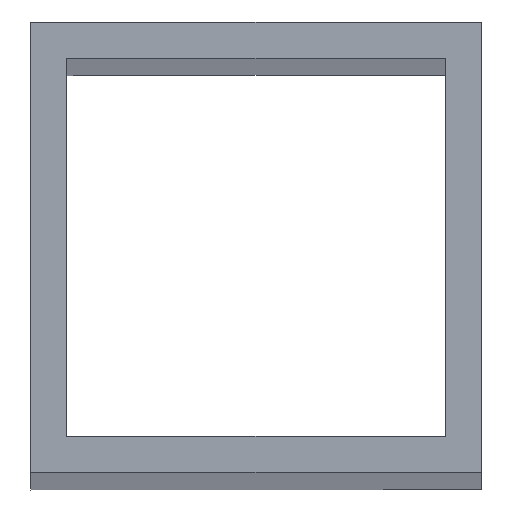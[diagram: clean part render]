
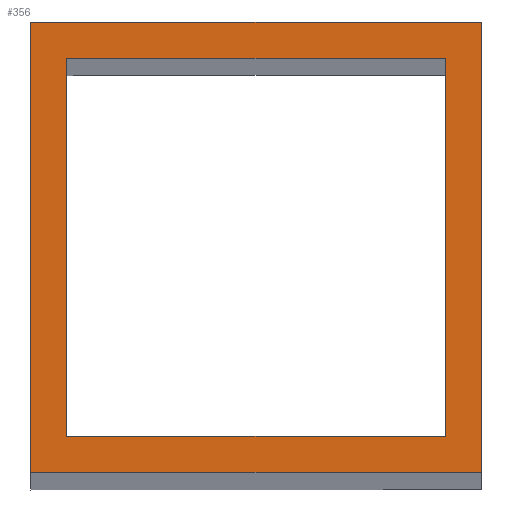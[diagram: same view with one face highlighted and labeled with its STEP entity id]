
A CAD part, top view. The second image highlights one B-rep face of the part: STEP entity #356.
In plain terms, the highlighted planar face has unit normal (0, 0, 1).
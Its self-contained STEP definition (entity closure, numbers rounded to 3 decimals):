
#32 = PLANE('',#33);
#33 = AXIS2_PLACEMENT_3D('',#34,#35,#36);
#34 = CARTESIAN_POINT('',(-25.,-25.,-25.));
#35 = DIRECTION('',(0.,1.,0.));
#36 = DIRECTION('',(1.,0.,0.));
#55 = VERTEX_POINT('',#56);
#56 = CARTESIAN_POINT('',(-25.,-25.,1101.268));
#70 = PLANE('',#71);
#71 = AXIS2_PLACEMENT_3D('',#72,#73,#74);
#72 = CARTESIAN_POINT('',(-25.,25.,-25.));
#73 = DIRECTION('',(1.,0.,-0.));
#74 = DIRECTION('',(0.,-1.,0.));
#82 = EDGE_CURVE('',#83,#55,#85,.T.);
#83 = VERTEX_POINT('',#84);
#84 = CARTESIAN_POINT('',(25.,-25.,1101.268));
#85 = SURFACE_CURVE('',#86,(#90,#96),.PCURVE_S1.);
#86 = LINE('',#87,#88);
#87 = CARTESIAN_POINT('',(-12.5,-25.,1101.268));
#88 = VECTOR('',#89,1.);
#89 = DIRECTION('',(-1.,0.,0.));
#90 = PCURVE('',#32,#91);
#91 = DEFINITIONAL_REPRESENTATION('',(#92),#95);
#92 = B_SPLINE_CURVE_WITH_KNOTS('',1,(#93,#94),.UNSPECIFIED.,.F.,.F.,(2,
    2),(-37.5,12.5),.PIECEWISE_BEZIER_KNOTS.);
#93 = CARTESIAN_POINT('',(50.,-1126.268));
#94 = CARTESIAN_POINT('',(0.,-1126.268));
#95 = ( GEOMETRIC_REPRESENTATION_CONTEXT(2) 
PARAMETRIC_REPRESENTATION_CONTEXT() REPRESENTATION_CONTEXT('2D SPACE',''
  ) );
#96 = PCURVE('',#97,#102);
#97 = PLANE('',#98);
#98 = AXIS2_PLACEMENT_3D('',#99,#100,#101);
#99 = CARTESIAN_POINT('',(-0.,-0.,1101.268));
#100 = DIRECTION('',(0.,0.,-1.));
#101 = DIRECTION('',(-1.,0.,-0.));
#102 = DEFINITIONAL_REPRESENTATION('',(#103),#106);
#103 = B_SPLINE_CURVE_WITH_KNOTS('',1,(#104,#105),.UNSPECIFIED.,.F.,.F.,
  (2,2),(-37.5,12.5),.PIECEWISE_BEZIER_KNOTS.);
#104 = CARTESIAN_POINT('',(-25.,-25.));
#105 = CARTESIAN_POINT('',(25.,-25.));
#106 = ( GEOMETRIC_REPRESENTATION_CONTEXT(2) 
PARAMETRIC_REPRESENTATION_CONTEXT() REPRESENTATION_CONTEXT('2D SPACE',''
  ) );
#122 = PLANE('',#123);
#123 = AXIS2_PLACEMENT_3D('',#124,#125,#126);
#124 = CARTESIAN_POINT('',(25.,-25.,-25.));
#125 = DIRECTION('',(-1.,0.,0.));
#126 = DIRECTION('',(0.,1.,0.));
#193 = PLANE('',#194);
#194 = AXIS2_PLACEMENT_3D('',#195,#196,#197);
#195 = CARTESIAN_POINT('',(25.,25.,-25.));
#196 = DIRECTION('',(0.,-1.,0.));
#197 = DIRECTION('',(-1.,0.,0.));
#223 = PLANE('',#224);
#224 = AXIS2_PLACEMENT_3D('',#225,#226,#227);
#225 = CARTESIAN_POINT('',(-21.,-21.,-25.));
#226 = DIRECTION('',(0.,1.,0.));
#227 = DIRECTION('',(1.,0.,0.));
#249 = PLANE('',#250);
#250 = AXIS2_PLACEMENT_3D('',#251,#252,#253);
#251 = CARTESIAN_POINT('',(-21.,21.,-25.));
#252 = DIRECTION('',(1.,0.,-0.));
#253 = DIRECTION('',(0.,-1.,0.));
#275 = PLANE('',#276);
#276 = AXIS2_PLACEMENT_3D('',#277,#278,#279);
#277 = CARTESIAN_POINT('',(21.,21.,-25.));
#278 = DIRECTION('',(0.,-1.,0.));
#279 = DIRECTION('',(-1.,0.,0.));
#299 = PLANE('',#300);
#300 = AXIS2_PLACEMENT_3D('',#301,#302,#303);
#301 = CARTESIAN_POINT('',(21.,-21.,-25.));
#302 = DIRECTION('',(-1.,0.,0.));
#303 = DIRECTION('',(0.,1.,0.));
#315 = EDGE_CURVE('',#316,#83,#318,.T.);
#316 = VERTEX_POINT('',#317);
#317 = CARTESIAN_POINT('',(25.,25.,1101.268));
#318 = SURFACE_CURVE('',#319,(#323,#329),.PCURVE_S1.);
#319 = LINE('',#320,#321);
#320 = CARTESIAN_POINT('',(25.,-12.5,1101.268));
#321 = VECTOR('',#322,1.);
#322 = DIRECTION('',(-0.,-1.,-0.));
#323 = PCURVE('',#122,#324);
#324 = DEFINITIONAL_REPRESENTATION('',(#325),#328);
#325 = B_SPLINE_CURVE_WITH_KNOTS('',1,(#326,#327),.UNSPECIFIED.,.F.,.F.,
  (2,2),(-37.5,12.5),.PIECEWISE_BEZIER_KNOTS.);
#326 = CARTESIAN_POINT('',(50.,-1126.268));
#327 = CARTESIAN_POINT('',(0.,-1126.268));
#328 = ( GEOMETRIC_REPRESENTATION_CONTEXT(2) 
PARAMETRIC_REPRESENTATION_CONTEXT() REPRESENTATION_CONTEXT('2D SPACE',''
  ) );
#329 = PCURVE('',#97,#330);
#330 = DEFINITIONAL_REPRESENTATION('',(#331),#334);
#331 = B_SPLINE_CURVE_WITH_KNOTS('',1,(#332,#333),.UNSPECIFIED.,.F.,.F.,
  (2,2),(-37.5,12.5),.PIECEWISE_BEZIER_KNOTS.);
#332 = CARTESIAN_POINT('',(-25.,25.));
#333 = CARTESIAN_POINT('',(-25.,-25.));
#334 = ( GEOMETRIC_REPRESENTATION_CONTEXT(2) 
PARAMETRIC_REPRESENTATION_CONTEXT() REPRESENTATION_CONTEXT('2D SPACE',''
  ) );
#356 = ADVANCED_FACE('',(#357,#401),#97,.F.);
#357 = FACE_BOUND('',#358,.F.);
#358 = EDGE_LOOP('',(#359,#360,#361,#382));
#359 = ORIENTED_EDGE('',*,*,#315,.T.);
#360 = ORIENTED_EDGE('',*,*,#82,.T.);
#361 = ORIENTED_EDGE('',*,*,#362,.T.);
#362 = EDGE_CURVE('',#55,#363,#365,.T.);
#363 = VERTEX_POINT('',#364);
#364 = CARTESIAN_POINT('',(-25.,25.,1101.268));
#365 = SURFACE_CURVE('',#366,(#370,#376),.PCURVE_S1.);
#366 = LINE('',#367,#368);
#367 = CARTESIAN_POINT('',(-25.,12.5,1101.268));
#368 = VECTOR('',#369,1.);
#369 = DIRECTION('',(0.,1.,0.));
#370 = PCURVE('',#97,#371);
#371 = DEFINITIONAL_REPRESENTATION('',(#372),#375);
#372 = B_SPLINE_CURVE_WITH_KNOTS('',1,(#373,#374),.UNSPECIFIED.,.F.,.F.,
  (2,2),(-37.5,12.5),.PIECEWISE_BEZIER_KNOTS.);
#373 = CARTESIAN_POINT('',(25.,-25.));
#374 = CARTESIAN_POINT('',(25.,25.));
#375 = ( GEOMETRIC_REPRESENTATION_CONTEXT(2) 
PARAMETRIC_REPRESENTATION_CONTEXT() REPRESENTATION_CONTEXT('2D SPACE',''
  ) );
#376 = PCURVE('',#70,#377);
#377 = DEFINITIONAL_REPRESENTATION('',(#378),#381);
#378 = B_SPLINE_CURVE_WITH_KNOTS('',1,(#379,#380),.UNSPECIFIED.,.F.,.F.,
  (2,2),(-37.5,12.5),.PIECEWISE_BEZIER_KNOTS.);
#379 = CARTESIAN_POINT('',(50.,-1126.268));
#380 = CARTESIAN_POINT('',(0.,-1126.268));
#381 = ( GEOMETRIC_REPRESENTATION_CONTEXT(2) 
PARAMETRIC_REPRESENTATION_CONTEXT() REPRESENTATION_CONTEXT('2D SPACE',''
  ) );
#382 = ORIENTED_EDGE('',*,*,#383,.T.);
#383 = EDGE_CURVE('',#363,#316,#384,.T.);
#384 = SURFACE_CURVE('',#385,(#389,#395),.PCURVE_S1.);
#385 = LINE('',#386,#387);
#386 = CARTESIAN_POINT('',(12.5,25.,1101.268));
#387 = VECTOR('',#388,1.);
#388 = DIRECTION('',(1.,0.,0.));
#389 = PCURVE('',#97,#390);
#390 = DEFINITIONAL_REPRESENTATION('',(#391),#394);
#391 = B_SPLINE_CURVE_WITH_KNOTS('',1,(#392,#393),.UNSPECIFIED.,.F.,.F.,
  (2,2),(-37.5,12.5),.PIECEWISE_BEZIER_KNOTS.);
#392 = CARTESIAN_POINT('',(25.,25.));
#393 = CARTESIAN_POINT('',(-25.,25.));
#394 = ( GEOMETRIC_REPRESENTATION_CONTEXT(2) 
PARAMETRIC_REPRESENTATION_CONTEXT() REPRESENTATION_CONTEXT('2D SPACE',''
  ) );
#395 = PCURVE('',#193,#396);
#396 = DEFINITIONAL_REPRESENTATION('',(#397),#400);
#397 = B_SPLINE_CURVE_WITH_KNOTS('',1,(#398,#399),.UNSPECIFIED.,.F.,.F.,
  (2,2),(-37.5,12.5),.PIECEWISE_BEZIER_KNOTS.);
#398 = CARTESIAN_POINT('',(50.,-1126.268));
#399 = CARTESIAN_POINT('',(0.,-1126.268));
#400 = ( GEOMETRIC_REPRESENTATION_CONTEXT(2) 
PARAMETRIC_REPRESENTATION_CONTEXT() REPRESENTATION_CONTEXT('2D SPACE',''
  ) );
#401 = FACE_BOUND('',#402,.F.);
#402 = EDGE_LOOP('',(#403,#426,#447,#468));
#403 = ORIENTED_EDGE('',*,*,#404,.F.);
#404 = EDGE_CURVE('',#405,#407,#409,.T.);
#405 = VERTEX_POINT('',#406);
#406 = CARTESIAN_POINT('',(21.,-21.,1101.268));
#407 = VERTEX_POINT('',#408);
#408 = CARTESIAN_POINT('',(-21.,-21.,1101.268));
#409 = SURFACE_CURVE('',#410,(#414,#420),.PCURVE_S1.);
#410 = LINE('',#411,#412);
#411 = CARTESIAN_POINT('',(-10.5,-21.,1101.268));
#412 = VECTOR('',#413,1.);
#413 = DIRECTION('',(-1.,0.,0.));
#414 = PCURVE('',#97,#415);
#415 = DEFINITIONAL_REPRESENTATION('',(#416),#419);
#416 = B_SPLINE_CURVE_WITH_KNOTS('',1,(#417,#418),.UNSPECIFIED.,.F.,.F.,
  (2,2),(-31.5,10.5),.PIECEWISE_BEZIER_KNOTS.);
#417 = CARTESIAN_POINT('',(-21.,-21.));
#418 = CARTESIAN_POINT('',(21.,-21.));
#419 = ( GEOMETRIC_REPRESENTATION_CONTEXT(2) 
PARAMETRIC_REPRESENTATION_CONTEXT() REPRESENTATION_CONTEXT('2D SPACE',''
  ) );
#420 = PCURVE('',#223,#421);
#421 = DEFINITIONAL_REPRESENTATION('',(#422),#425);
#422 = B_SPLINE_CURVE_WITH_KNOTS('',1,(#423,#424),.UNSPECIFIED.,.F.,.F.,
  (2,2),(-31.5,10.5),.PIECEWISE_BEZIER_KNOTS.);
#423 = CARTESIAN_POINT('',(42.,-1126.268));
#424 = CARTESIAN_POINT('',(0.,-1126.268));
#425 = ( GEOMETRIC_REPRESENTATION_CONTEXT(2) 
PARAMETRIC_REPRESENTATION_CONTEXT() REPRESENTATION_CONTEXT('2D SPACE',''
  ) );
#426 = ORIENTED_EDGE('',*,*,#427,.F.);
#427 = EDGE_CURVE('',#428,#405,#430,.T.);
#428 = VERTEX_POINT('',#429);
#429 = CARTESIAN_POINT('',(21.,21.,1101.268));
#430 = SURFACE_CURVE('',#431,(#435,#441),.PCURVE_S1.);
#431 = LINE('',#432,#433);
#432 = CARTESIAN_POINT('',(21.,-10.5,1101.268));
#433 = VECTOR('',#434,1.);
#434 = DIRECTION('',(-0.,-1.,-0.));
#435 = PCURVE('',#97,#436);
#436 = DEFINITIONAL_REPRESENTATION('',(#437),#440);
#437 = B_SPLINE_CURVE_WITH_KNOTS('',1,(#438,#439),.UNSPECIFIED.,.F.,.F.,
  (2,2),(-31.5,10.5),.PIECEWISE_BEZIER_KNOTS.);
#438 = CARTESIAN_POINT('',(-21.,21.));
#439 = CARTESIAN_POINT('',(-21.,-21.));
#440 = ( GEOMETRIC_REPRESENTATION_CONTEXT(2) 
PARAMETRIC_REPRESENTATION_CONTEXT() REPRESENTATION_CONTEXT('2D SPACE',''
  ) );
#441 = PCURVE('',#299,#442);
#442 = DEFINITIONAL_REPRESENTATION('',(#443),#446);
#443 = B_SPLINE_CURVE_WITH_KNOTS('',1,(#444,#445),.UNSPECIFIED.,.F.,.F.,
  (2,2),(-31.5,10.5),.PIECEWISE_BEZIER_KNOTS.);
#444 = CARTESIAN_POINT('',(42.,-1126.268));
#445 = CARTESIAN_POINT('',(0.,-1126.268));
#446 = ( GEOMETRIC_REPRESENTATION_CONTEXT(2) 
PARAMETRIC_REPRESENTATION_CONTEXT() REPRESENTATION_CONTEXT('2D SPACE',''
  ) );
#447 = ORIENTED_EDGE('',*,*,#448,.F.);
#448 = EDGE_CURVE('',#449,#428,#451,.T.);
#449 = VERTEX_POINT('',#450);
#450 = CARTESIAN_POINT('',(-21.,21.,1101.268));
#451 = SURFACE_CURVE('',#452,(#456,#462),.PCURVE_S1.);
#452 = LINE('',#453,#454);
#453 = CARTESIAN_POINT('',(10.5,21.,1101.268));
#454 = VECTOR('',#455,1.);
#455 = DIRECTION('',(1.,0.,0.));
#456 = PCURVE('',#97,#457);
#457 = DEFINITIONAL_REPRESENTATION('',(#458),#461);
#458 = B_SPLINE_CURVE_WITH_KNOTS('',1,(#459,#460),.UNSPECIFIED.,.F.,.F.,
  (2,2),(-31.5,10.5),.PIECEWISE_BEZIER_KNOTS.);
#459 = CARTESIAN_POINT('',(21.,21.));
#460 = CARTESIAN_POINT('',(-21.,21.));
#461 = ( GEOMETRIC_REPRESENTATION_CONTEXT(2) 
PARAMETRIC_REPRESENTATION_CONTEXT() REPRESENTATION_CONTEXT('2D SPACE',''
  ) );
#462 = PCURVE('',#275,#463);
#463 = DEFINITIONAL_REPRESENTATION('',(#464),#467);
#464 = B_SPLINE_CURVE_WITH_KNOTS('',1,(#465,#466),.UNSPECIFIED.,.F.,.F.,
  (2,2),(-31.5,10.5),.PIECEWISE_BEZIER_KNOTS.);
#465 = CARTESIAN_POINT('',(42.,-1126.268));
#466 = CARTESIAN_POINT('',(0.,-1126.268));
#467 = ( GEOMETRIC_REPRESENTATION_CONTEXT(2) 
PARAMETRIC_REPRESENTATION_CONTEXT() REPRESENTATION_CONTEXT('2D SPACE',''
  ) );
#468 = ORIENTED_EDGE('',*,*,#469,.F.);
#469 = EDGE_CURVE('',#407,#449,#470,.T.);
#470 = SURFACE_CURVE('',#471,(#475,#481),.PCURVE_S1.);
#471 = LINE('',#472,#473);
#472 = CARTESIAN_POINT('',(-21.,10.5,1101.268));
#473 = VECTOR('',#474,1.);
#474 = DIRECTION('',(0.,1.,0.));
#475 = PCURVE('',#97,#476);
#476 = DEFINITIONAL_REPRESENTATION('',(#477),#480);
#477 = B_SPLINE_CURVE_WITH_KNOTS('',1,(#478,#479),.UNSPECIFIED.,.F.,.F.,
  (2,2),(-31.5,10.5),.PIECEWISE_BEZIER_KNOTS.);
#478 = CARTESIAN_POINT('',(21.,-21.));
#479 = CARTESIAN_POINT('',(21.,21.));
#480 = ( GEOMETRIC_REPRESENTATION_CONTEXT(2) 
PARAMETRIC_REPRESENTATION_CONTEXT() REPRESENTATION_CONTEXT('2D SPACE',''
  ) );
#481 = PCURVE('',#249,#482);
#482 = DEFINITIONAL_REPRESENTATION('',(#483),#486);
#483 = B_SPLINE_CURVE_WITH_KNOTS('',1,(#484,#485),.UNSPECIFIED.,.F.,.F.,
  (2,2),(-31.5,10.5),.PIECEWISE_BEZIER_KNOTS.);
#484 = CARTESIAN_POINT('',(42.,-1126.268));
#485 = CARTESIAN_POINT('',(0.,-1126.268));
#486 = ( GEOMETRIC_REPRESENTATION_CONTEXT(2) 
PARAMETRIC_REPRESENTATION_CONTEXT() REPRESENTATION_CONTEXT('2D SPACE',''
  ) );
